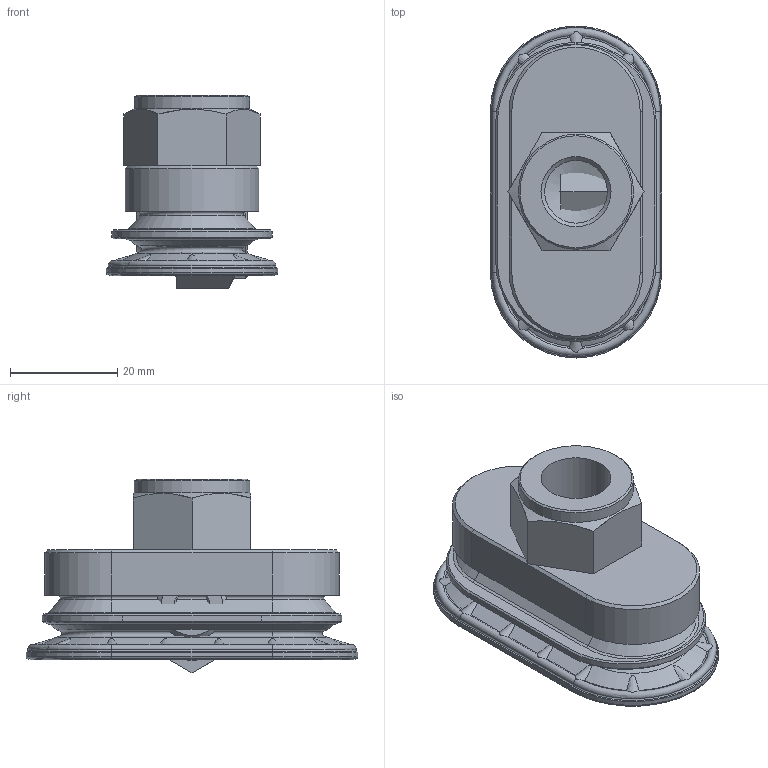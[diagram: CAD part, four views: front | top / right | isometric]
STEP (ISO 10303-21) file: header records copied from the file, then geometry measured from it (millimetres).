
FILE_DESCRIPTION( ( 'Unknown' ), '1' );
FILE_NAME( 'C:/Documents and Settings/Owner/官帕 拳搁/货 弃歹 (2)/VOBF30X60-14F.stp', 'Unknown', ( 'Unknown' ), ( 'Unknown' ), 'PSStep 10.0', 'Unknown', ' ' );
FILE_SCHEMA( ( 'AUTOMOTIVE_DESIGN { 1 0 10303 214 1 1 1 1 }' ) );
Length unit declared in the file: millimetre
Products named in the file (3): Assem1; VOBF 30x60_譆; VOBF 14F
Bounding box: 32 x 62 x 36.15 mm (x, y, z)
Surface area: 25604.4 mm2 (no closed solid volume)
Topology: 0 solids, 1432 shells, 1432 faces, 7172 edges, 7120 vertices
Faces by surface type: plane 820, cylinder 352, cone 208, torus 52
Full cylindrical faces by diameter (mm): 4.5 x4, 6 x2, 7 x4, 11.44 x2, 11.445 x2, 11.7 x2, 13.1 x2, 13.15 x2, 15 x2, 17 x2, 19 x2, 21.5 x2
Entity records: 44596 total; most frequent: CARTESIAN_POINT 13205, DIRECTION 4920, ORIENTED_EDGE 3556, EDGE_CURVE 3556, VERTEX_POINT 3556, LINE 1938, VECTOR 1938, AXIS2_PLACEMENT_3D 1491
